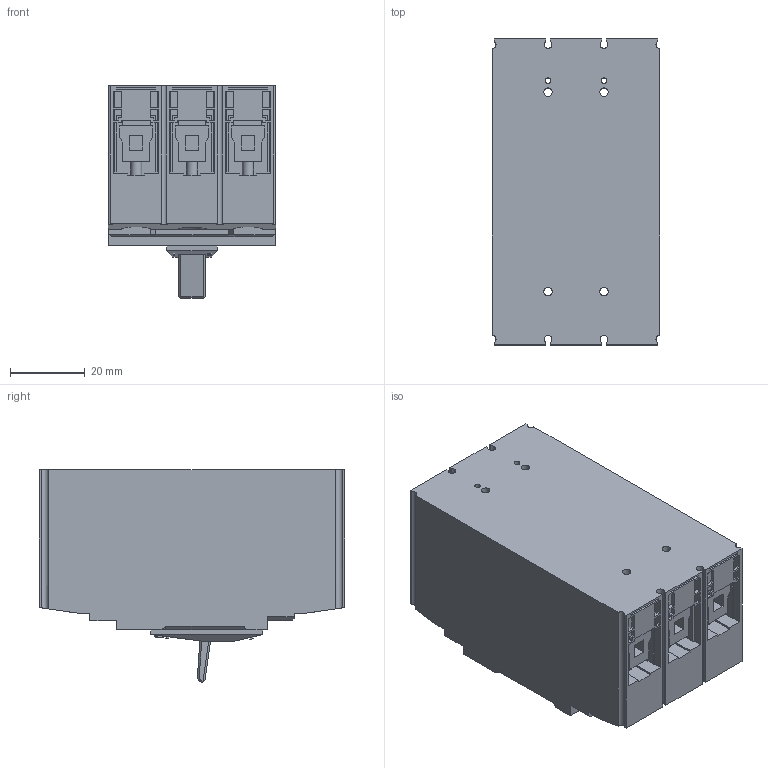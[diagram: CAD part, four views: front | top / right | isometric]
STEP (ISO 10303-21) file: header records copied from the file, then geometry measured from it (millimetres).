
FILE_DESCRIPTION(/* description */ ('','CAx-IF Rec.Pracs.---Representation and Presentation of Product Manufacturing Information (PMI)---3.8---2014-02-18'),/* implementation_level */ '2;1');
FILE_NAME(/* name */ 'E:\3D model\32-sosul-mccb-125af-ul-3p.stp',/* time_stamp */ '2017-11-09T14:48:29+03:00',/* author */ ('dobrin'),/* organization */ (''),/* preprocessor_version */ 'ST-DEVELOPER v16.13',/* originating_system */ 'Autodesk Inventor 2018',/* authorisation */ '');
FILE_SCHEMA (('AP242_MANAGED_MODEL_BASED_3D_ENGINEERING_MIM_LF { 1 0 10303 442 1 1 4 }'));
Length unit declared in the file: metre
Products named in the file (1): 32-sosul-mccb-125af-ul-3p
Bounding box: 45 x 82 x 57.11 mm (x, y, z)
Volume: 139326.8 mm3; surface area: 33320.5 mm2
Topology: 1 solids, 1 shells, 1164 faces, 3355 edges, 2218 vertices
Faces by surface type: plane 916, cylinder 210, torus 20, cone 10, bspline 8
Full cylindrical faces by diameter (mm): 0.5 x1, 0.7 x1, 1.25 x4, 1.5 x2, 2.25 x4, 3 x6, 7 x2
Entity records: 38907 total; most frequent: CARTESIAN_POINT 7855, ORIENTED_EDGE 6596, DIRECTION 6152, EDGE_CURVE 3298, LINE 2752, VECTOR 2752, VERTEX_POINT 2200, AXIS2_PLACEMENT_3D 1704
